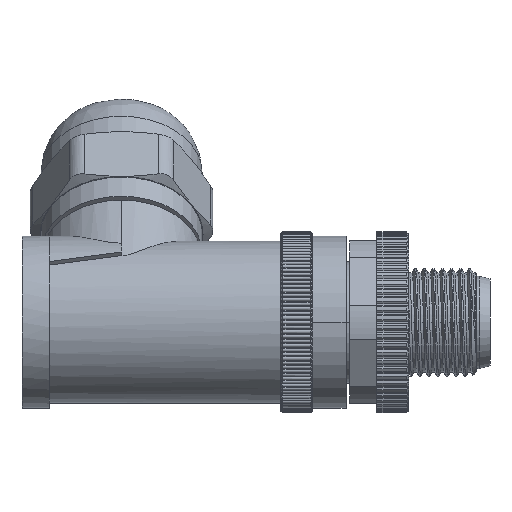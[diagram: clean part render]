
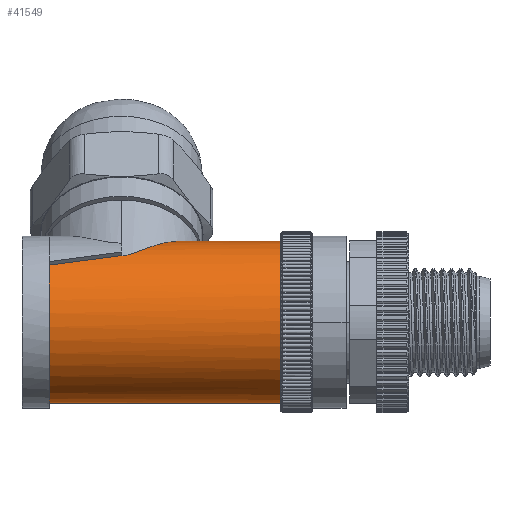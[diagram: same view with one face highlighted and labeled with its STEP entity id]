
A CAD part, left-side view. The second image highlights one B-rep face of the part: STEP entity #41549.
In plain terms, the highlighted cylindrical face has radius 8.95 mm (diameter 17.9 mm), a partial arc.
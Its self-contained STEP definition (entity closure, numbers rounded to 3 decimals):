
#6079=CARTESIAN_POINT('',(0.,4.9,0.));
#6080=DIRECTION('',(0.,1.,0.));
#6081=DIRECTION('',(0.,0.,-1.));
#6082=AXIS2_PLACEMENT_3D('',#6079,#6080,#6081);
#6094=CARTESIAN_POINT('',(0.,4.9,0.));
#6095=DIRECTION('',(0.,1.,0.));
#6096=DIRECTION('',(-0.267,0.,0.964));
#6097=AXIS2_PLACEMENT_3D('',#6094,#6095,#6096);
#9076=DIRECTION('',(0.,1.,0.));
#9077=VECTOR('',#9076,11.485);
#9078=CARTESIAN_POINT('',(0.,4.9,8.95));
#9079=LINE('',#9078,#9077);
#9130=CARTESIAN_POINT('',(0.,4.868,-8.95));
#9131=CARTESIAN_POINT('',(-0.268,4.871,-8.95));
#9132=CARTESIAN_POINT('',(-0.805,4.878,
-8.926));
#9133=CARTESIAN_POINT('',(-1.604,4.889,
-8.817));
#9134=CARTESIAN_POINT('',(-2.128,4.896,
-8.698));
#9135=CARTESIAN_POINT('',(-2.386,4.9,
-8.626));
#9137=DIRECTION('',(0.,1.,0.));
#9138=VECTOR('',#9137,25.6);
#9139=CARTESIAN_POINT('',(0.,4.9,-8.95));
#9140=LINE('',#9139,#9138);
#9141=CARTESIAN_POINT('',(-6.329,30.5,6.329));
#9142=CARTESIAN_POINT('',(-5.944,27.832,6.713));
#9143=CARTESIAN_POINT('',(-5.524,25.166,7.063));
#9144=CARTESIAN_POINT('',(-5.069,22.5,7.376));
#9146=CARTESIAN_POINT('',(-2.386,4.9,8.626));
#9147=CARTESIAN_POINT('',(-2.876,4.893,8.491));
#9148=CARTESIAN_POINT('',(-3.83,4.88,8.138));
#9149=CARTESIAN_POINT('',(-5.156,4.859,7.368));
#9150=CARTESIAN_POINT('',(-6.309,4.839,6.407));
#9151=CARTESIAN_POINT('',(-7.298,4.819,5.254));
#9152=CARTESIAN_POINT('',(-8.078,4.799,3.952));
#9153=CARTESIAN_POINT('',(-8.633,4.779,2.52));
#9154=CARTESIAN_POINT('',(-8.933,4.758,1.034));
#9155=CARTESIAN_POINT('',(-8.979,4.738,
-0.471));
#9156=CARTESIAN_POINT('',(-8.779,4.719,
-1.946));
#9157=CARTESIAN_POINT('',(-8.322,4.698,
-3.411));
#9158=CARTESIAN_POINT('',(-7.626,4.678,
-4.768));
#9159=CARTESIAN_POINT('',(-6.705,4.658,
-5.992));
#9160=CARTESIAN_POINT('',(-5.627,4.638,
-7.013));
#9161=CARTESIAN_POINT('',(-4.367,4.618,
-7.862));
#9162=CARTESIAN_POINT('',(-2.971,4.597,
-8.489));
#9163=CARTESIAN_POINT('',(-1.49,4.577,
-8.868));
#9164=CARTESIAN_POINT('',(-0.494,4.564,-8.95));
#9165=CARTESIAN_POINT('',(0.,4.557,-8.95));
#9167=DIRECTION('',(0.,1.,0.));
#9168=VECTOR('',#9167,0.311);
#9169=CARTESIAN_POINT('',(0.,4.557,-8.95));
#9170=LINE('',#9169,#9168);
#9198=CARTESIAN_POINT('',(0.,4.868,-8.95));
#9226=CARTESIAN_POINT('',(-2.386,4.9,8.626));
#11165=CARTESIAN_POINT('',(0.,30.5,0.));
#11166=DIRECTION('',(0.,-1.,0.));
#11167=DIRECTION('',(-0.707,0.,0.707));
#11168=AXIS2_PLACEMENT_3D('',#11165,#11166,#11167);
#11228=CARTESIAN_POINT('',(0.,16.385,
8.95));
#11229=CARTESIAN_POINT('',(-0.256,16.573,
8.95));
#11230=CARTESIAN_POINT('',(-0.754,16.954,
8.929));
#11231=CARTESIAN_POINT('',(-1.48,17.56,
8.836));
#11232=CARTESIAN_POINT('',(-2.112,18.133,
8.704));
#11233=CARTESIAN_POINT('',(-2.635,18.641,
8.558));
#11234=CARTESIAN_POINT('',(-3.088,19.111,
8.404));
#11235=CARTESIAN_POINT('',(-3.476,19.543,
8.25));
#11236=CARTESIAN_POINT('',(-3.811,19.94,
8.101));
#11237=CARTESIAN_POINT('',(-4.099,20.309,
7.958));
#11238=CARTESIAN_POINT('',(-4.344,20.652,
7.826));
#11239=CARTESIAN_POINT('',(-4.551,20.971,
7.708));
#11240=CARTESIAN_POINT('',(-4.721,21.271,
7.604));
#11241=CARTESIAN_POINT('',(-4.856,21.551,
7.519));
#11242=CARTESIAN_POINT('',(-4.956,21.812,
7.453));
#11243=CARTESIAN_POINT('',(-5.023,22.056,
7.407));
#11244=CARTESIAN_POINT('',(-5.061,22.286,
7.381));
#11245=CARTESIAN_POINT('',(-5.069,22.43,
7.376));
#11246=CARTESIAN_POINT('',(-5.069,22.5,7.376));
#31566=CARTESIAN_POINT('',(0.,4.9,8.95));
#31567=CARTESIAN_POINT('',(0.,4.9,-8.95));
#31568=VERTEX_POINT('',#31566);
#31569=VERTEX_POINT('',#31567);
#31570=CARTESIAN_POINT('',(-2.386,4.9,-8.626));
#31571=VERTEX_POINT('',#31570);
#31577=VERTEX_POINT('',#9226);
#31579=VERTEX_POINT('',#9198);
#31580=CARTESIAN_POINT('',(0.,4.557,-8.95));
#31581=VERTEX_POINT('',#31580);
#31590=CARTESIAN_POINT('',(0.,16.385,
8.95));
#31591=VERTEX_POINT('',#31590);
#31595=CARTESIAN_POINT('',(0.,30.5,-8.95));
#31596=VERTEX_POINT('',#31595);
#31623=CARTESIAN_POINT('',(-6.329,30.5,6.329));
#31624=VERTEX_POINT('',#31623);
#31625=VERTEX_POINT('',#9144);
#41526=CARTESIAN_POINT('',(0.,33.5,0.));
#41527=DIRECTION('',(0.,-1.,0.));
#41528=DIRECTION('',(0.,0.,-1.));
#41529=AXIS2_PLACEMENT_3D('',#41526,#41527,#41528);
#41530=CYLINDRICAL_SURFACE('',#41529,8.95);
#41532=ORIENTED_EDGE('',*,*,#41531,.T.);
#41533=ORIENTED_EDGE('',*,*,#38025,.F.);
#41534=ORIENTED_EDGE('',*,*,#41521,.T.);
#41536=ORIENTED_EDGE('',*,*,#41535,.F.);
#41538=ORIENTED_EDGE('',*,*,#41537,.T.);
#41540=ORIENTED_EDGE('',*,*,#41539,.F.);
#41541=ORIENTED_EDGE('',*,*,#41511,.F.);
#41542=ORIENTED_EDGE('',*,*,#38035,.F.);
#41544=ORIENTED_EDGE('',*,*,#41543,.T.);
#41546=ORIENTED_EDGE('',*,*,#41545,.T.);
#41547=EDGE_LOOP('',(#41532,#41533,#41534,#41536,#41538,#41540,#41541,#41542,
#41544,#41546));
#41548=FACE_OUTER_BOUND('',#41547,.F.);
#41549=ADVANCED_FACE('',(#41548),#41530,.T.);
#6083=CIRCLE('',#6082,8.95);
#6098=CIRCLE('',#6097,8.95);
#9136=B_SPLINE_CURVE_WITH_KNOTS('',3,(#9130,#9131,#9132,#9133,#9134,#9135),
.UNSPECIFIED.,.F.,.F.,(4,1,1,4),(0.,0.333,0.667,1.),
.UNSPECIFIED.);
#9145=B_SPLINE_CURVE_WITH_KNOTS('',3,(#9141,#9142,#9143,#9144),.UNSPECIFIED.,
.F.,.F.,(4,4),(0.,1.),.UNSPECIFIED.);
#9166=B_SPLINE_CURVE_WITH_KNOTS('',3,(#9146,#9147,#9148,#9149,#9150,#9151,#9152,
#9153,#9154,#9155,#9156,#9157,#9158,#9159,#9160,#9161,#9162,#9163,#9164,#9165),
.UNSPECIFIED.,.F.,.F.,(4,1,1,1,1,1,1,1,1,1,1,1,1,1,1,1,1,4),(0.,
0.059,0.118,0.176,0.235,
0.294,0.353,0.412,0.471,
0.529,0.588,0.647,0.706,
0.765,0.824,0.882,0.941,1.),
.UNSPECIFIED.);
#11169=CIRCLE('',#11168,8.95);
#11247=B_SPLINE_CURVE_WITH_KNOTS('',3,(#11228,#11229,#11230,#11231,#11232,
#11233,#11234,#11235,#11236,#11237,#11238,#11239,#11240,#11241,#11242,#11243,
#11244,#11245,#11246),.UNSPECIFIED.,.F.,.F.,(4,1,1,1,1,1,1,1,1,1,1,1,1,1,1,1,4),
(0.,0.063,0.125,0.188,0.25,0.313,0.375,0.438,0.5,0.563,
0.625,0.688,0.75,0.813,0.875,0.938,1.),.UNSPECIFIED.);
#38025=EDGE_CURVE('',#31569,#31571,#6083,.T.);
#38035=EDGE_CURVE('',#31577,#31568,#6098,.T.);
#41511=EDGE_CURVE('',#31568,#31591,#9079,.T.);
#41521=EDGE_CURVE('',#31569,#31596,#9140,.T.);
#41531=EDGE_CURVE('',#31579,#31571,#9136,.T.);
#41535=EDGE_CURVE('',#31624,#31596,#11169,.T.);
#41537=EDGE_CURVE('',#31624,#31625,#9145,.T.);
#41539=EDGE_CURVE('',#31591,#31625,#11247,.T.);
#41543=EDGE_CURVE('',#31577,#31581,#9166,.T.);
#41545=EDGE_CURVE('',#31581,#31579,#9170,.T.);
